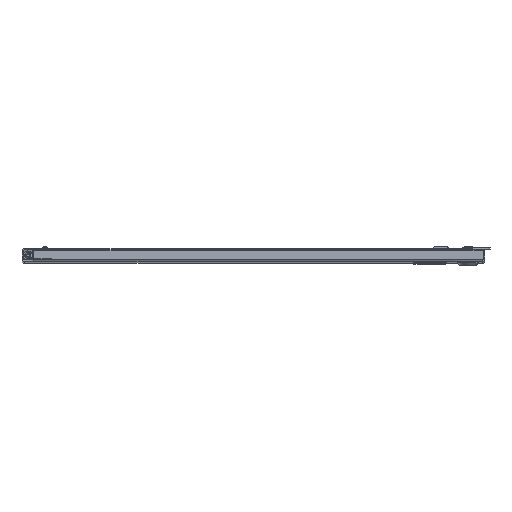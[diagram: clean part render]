
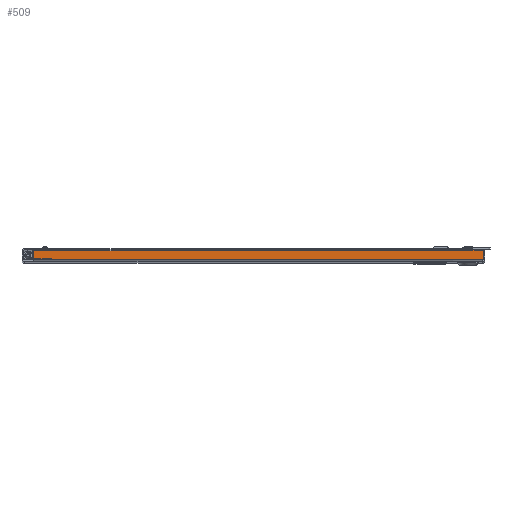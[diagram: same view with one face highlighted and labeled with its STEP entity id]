
A CAD part, top view. The second image highlights one B-rep face of the part: STEP entity #509.
In plain terms, the highlighted planar face has unit normal (0, 0, 1).
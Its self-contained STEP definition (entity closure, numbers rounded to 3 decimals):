
#509 = ADVANCED_FACE( '', ( #1150 ), #1151, .T. );
#1150 = FACE_OUTER_BOUND( '', #2010, .T. );
#1151 = PLANE( '', #2011 );
#2010 = EDGE_LOOP( '', ( #3206, #3207, #3208, #3209, #3210, #3211, #3212 ) );
#2011 = AXIS2_PLACEMENT_3D( '', #3213, #3214, #3215 );
#3206 = ORIENTED_EDGE( '', *, *, #5412, .T. );
#3207 = ORIENTED_EDGE( '', *, *, #5413, .T. );
#3208 = ORIENTED_EDGE( '', *, *, #5414, .F. );
#3209 = ORIENTED_EDGE( '', *, *, #5415, .F. );
#3210 = ORIENTED_EDGE( '', *, *, #5416, .F. );
#3211 = ORIENTED_EDGE( '', *, *, #5417, .T. );
#3212 = ORIENTED_EDGE( '', *, *, #5418, .T. );
#3213 = CARTESIAN_POINT( '', ( -233.604, 1.181, 619.125 ) );
#3214 = DIRECTION( '', ( 0., 0., 1. ) );
#3215 = DIRECTION( '', ( 0., -1., 0. ) );
#5412 = EDGE_CURVE( '', #6360, #6361, #6362, .T. );
#5413 = EDGE_CURVE( '', #6361, #6363, #6364, .T. );
#5414 = EDGE_CURVE( '', #6365, #6363, #6366, .T. );
#5415 = EDGE_CURVE( '', #6367, #6365, #6368, .T. );
#5416 = EDGE_CURVE( '', #6369, #6367, #6370, .T. );
#5417 = EDGE_CURVE( '', #6369, #6371, #6372, .T. );
#5418 = EDGE_CURVE( '', #6371, #6360, #6373, .T. );
#6360 = VERTEX_POINT( '', #7691 );
#6361 = VERTEX_POINT( '', #7692 );
#6362 = LINE( '', #7693, #7694 );
#6363 = VERTEX_POINT( '', #7695 );
#6364 = LINE( '', #7696, #7697 );
#6365 = VERTEX_POINT( '', #7698 );
#6366 = LINE( '', #7699, #7700 );
#6367 = VERTEX_POINT( '', #7701 );
#6368 = LINE( '', #7702, #7703 );
#6369 = VERTEX_POINT( '', #7704 );
#6370 = LINE( '', #7705, #7706 );
#6371 = VERTEX_POINT( '', #7707 );
#6372 = LINE( '', #7708, #7709 );
#6373 = LINE( '', #7710, #7711 );
#7691 = CARTESIAN_POINT( '', ( 243.256, 2.184, 619.125 ) );
#7692 = CARTESIAN_POINT( '', ( 243.256, 12.04, 619.125 ) );
#7693 = CARTESIAN_POINT( '', ( 243.256, 1.181, 619.125 ) );
#7694 = VECTOR( '', #9671, 1000. );
#7695 = CARTESIAN_POINT( '', ( 232.158, 12.04, 619.125 ) );
#7696 = CARTESIAN_POINT( '', ( 244.729, 12.04, 619.125 ) );
#7697 = VECTOR( '', #9672, 1000. );
#7698 = CARTESIAN_POINT( '', ( 232.158, 11.303, 619.125 ) );
#7699 = CARTESIAN_POINT( '', ( 232.158, 11.303, 619.125 ) );
#7700 = VECTOR( '', #9673, 1000. );
#7701 = CARTESIAN_POINT( '', ( 232.156, 11.303, 619.125 ) );
#7702 = CARTESIAN_POINT( '', ( 232.156, 11.303, 619.125 ) );
#7703 = VECTOR( '', #9674, 1000. );
#7704 = CARTESIAN_POINT( '', ( -233.604, 11.303, 619.125 ) );
#7705 = CARTESIAN_POINT( '', ( 232.156, 11.303, 619.125 ) );
#7706 = VECTOR( '', #9675, 1000. );
#7707 = CARTESIAN_POINT( '', ( -233.604, 2.184, 619.125 ) );
#7708 = CARTESIAN_POINT( '', ( -233.604, 1.181, 619.125 ) );
#7709 = VECTOR( '', #9676, 1000. );
#7710 = CARTESIAN_POINT( '', ( -233.604, 2.184, 619.125 ) );
#7711 = VECTOR( '', #9677, 1000. );
#9671 = DIRECTION( '', ( 0., 1., 0. ) );
#9672 = DIRECTION( '', ( -1., 0., 0. ) );
#9673 = DIRECTION( '', ( 0., 1., 0. ) );
#9674 = DIRECTION( '', ( 1., 0., 0. ) );
#9675 = DIRECTION( '', ( 1., 0., 0. ) );
#9676 = DIRECTION( '', ( 0., -1., 0. ) );
#9677 = DIRECTION( '', ( 1., 0., 0. ) );
